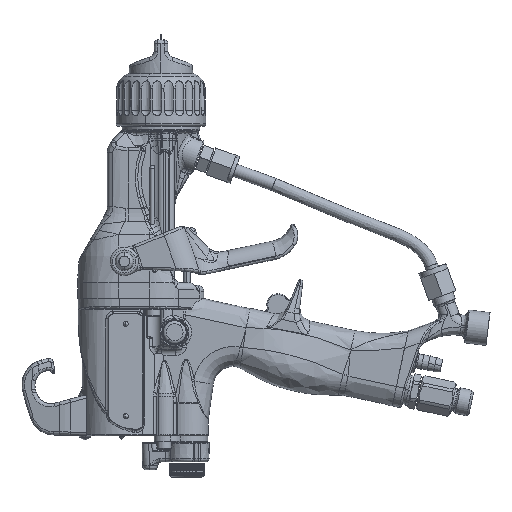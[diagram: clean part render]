
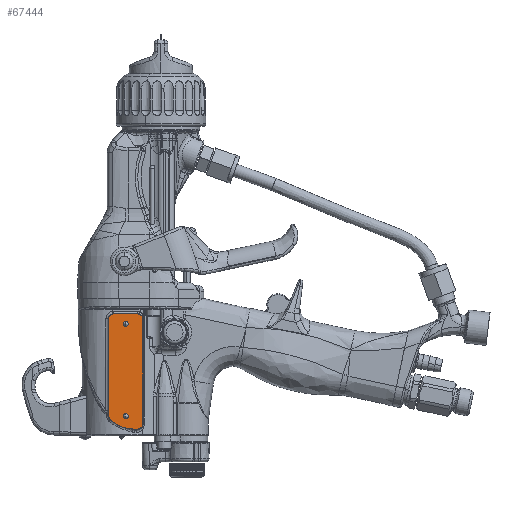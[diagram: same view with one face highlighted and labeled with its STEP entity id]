
A CAD part, left-side view. The second image highlights one B-rep face of the part: STEP entity #67444.
In plain terms, the highlighted planar face has unit normal (-1, 0, 0).
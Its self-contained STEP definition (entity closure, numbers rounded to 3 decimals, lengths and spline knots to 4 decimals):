
#59208=CARTESIAN_POINT('',(-0.755,0.4555,-4.42));
#59209=DIRECTION('',(-1.,0.,0.));
#59210=DIRECTION('',(0.,-1.,0.));
#59211=AXIS2_PLACEMENT_3D('',#59208,#59209,#59210);
#59213=DIRECTION('',(0.,0.,1.));
#59214=VECTOR('',#59213,2.062);
#59215=CARTESIAN_POINT('',(-0.755,0.357,-6.482));
#59216=LINE('',#59215,#59214);
#59217=CARTESIAN_POINT('',(-0.755,0.4555,-6.482));
#59218=DIRECTION('',(-1.,0.,0.));
#59219=DIRECTION('',(0.,0.,-1.));
#59220=AXIS2_PLACEMENT_3D('',#59217,#59218,#59219);
#59222=DIRECTION('',(0.,-1.,0.));
#59223=VECTOR('',#59222,0.087);
#59224=CARTESIAN_POINT('',(-0.755,0.5425,-6.5805));
#59225=LINE('',#59224,#59223);
#59226=CARTESIAN_POINT('',(-0.755,0.5425,-5.942));
#59227=DIRECTION('',(-1.,0.,0.));
#59228=DIRECTION('',(0.,0.713,-0.701));
#59229=AXIS2_PLACEMENT_3D('',#59226,#59227,#59228);
#59231=CARTESIAN_POINT('',(-0.755,0.9205,-6.3135));
#59232=DIRECTION('',(-1.,0.,0.));
#59233=DIRECTION('',(0.,1.,0.));
#59234=AXIS2_PLACEMENT_3D('',#59231,#59232,#59233);
#59236=DIRECTION('',(0.,0.,-1.));
#59237=VECTOR('',#59236,1.8935);
#59238=CARTESIAN_POINT('',(-0.755,1.029,-4.42));
#59239=LINE('',#59238,#59237);
#59240=CARTESIAN_POINT('',(-0.755,0.9305,-4.42));
#59241=DIRECTION('',(-1.,0.,0.));
#59242=DIRECTION('',(0.,0.,1.));
#59243=AXIS2_PLACEMENT_3D('',#59240,#59241,#59242);
#59245=DIRECTION('',(0.,1.,0.));
#59246=VECTOR('',#59245,0.475);
#59247=CARTESIAN_POINT('',(-0.755,0.4555,-4.3215));
#59248=LINE('',#59247,#59246);
#63895=CARTESIAN_POINT('',(-0.755,0.357,-4.42));
#63896=CARTESIAN_POINT('',(-0.755,0.4555,-4.3215));
#63897=VERTEX_POINT('',#63895);
#63898=VERTEX_POINT('',#63896);
#63899=CARTESIAN_POINT('',(-0.755,0.9305,-4.3215));
#63900=VERTEX_POINT('',#63899);
#63901=CARTESIAN_POINT('',(-0.755,1.029,-4.42));
#63902=VERTEX_POINT('',#63901);
#63903=CARTESIAN_POINT('',(-0.755,1.029,-6.3135));
#63904=VERTEX_POINT('',#63903);
#63905=CARTESIAN_POINT('',(-0.755,0.9979,-6.3895));
#63906=VERTEX_POINT('',#63905);
#63907=CARTESIAN_POINT('',(-0.755,0.5425,-6.5805));
#63908=VERTEX_POINT('',#63907);
#63909=CARTESIAN_POINT('',(-0.755,0.4555,-6.5805));
#63910=VERTEX_POINT('',#63909);
#63911=CARTESIAN_POINT('',(-0.755,0.357,-6.482));
#63912=VERTEX_POINT('',#63911);
#67419=CARTESIAN_POINT('',(-0.755,0.1305,-3.75));
#67420=DIRECTION('',(1.,0.,0.));
#67421=DIRECTION('',(0.,0.,-1.));
#67422=AXIS2_PLACEMENT_3D('',#67419,#67420,#67421);
#67423=PLANE('',#67422);
#67425=ORIENTED_EDGE('',*,*,#67424,.F.);
#67427=ORIENTED_EDGE('',*,*,#67426,.F.);
#67429=ORIENTED_EDGE('',*,*,#67428,.F.);
#67431=ORIENTED_EDGE('',*,*,#67430,.F.);
#67433=ORIENTED_EDGE('',*,*,#67432,.F.);
#67435=ORIENTED_EDGE('',*,*,#67434,.F.);
#67437=ORIENTED_EDGE('',*,*,#67436,.F.);
#67439=ORIENTED_EDGE('',*,*,#67438,.F.);
#67441=ORIENTED_EDGE('',*,*,#67440,.F.);
#67442=EDGE_LOOP('',(#67425,#67427,#67429,#67431,#67433,#67435,#67437,#67439,
#67441));
#67443=FACE_OUTER_BOUND('',#67442,.F.);
#67444=ADVANCED_FACE('',(#67443),#67423,.F.);
#59212=CIRCLE('',#59211,0.0985);
#59221=CIRCLE('',#59220,0.0985);
#59230=CIRCLE('',#59229,0.6385);
#59235=CIRCLE('',#59234,0.1085);
#59244=CIRCLE('',#59243,0.0985);
#67424=EDGE_CURVE('',#63897,#63898,#59212,.T.);
#67426=EDGE_CURVE('',#63912,#63897,#59216,.T.);
#67428=EDGE_CURVE('',#63910,#63912,#59221,.T.);
#67430=EDGE_CURVE('',#63908,#63910,#59225,.T.);
#67432=EDGE_CURVE('',#63906,#63908,#59230,.T.);
#67434=EDGE_CURVE('',#63904,#63906,#59235,.T.);
#67436=EDGE_CURVE('',#63902,#63904,#59239,.T.);
#67438=EDGE_CURVE('',#63900,#63902,#59244,.T.);
#67440=EDGE_CURVE('',#63898,#63900,#59248,.T.);
